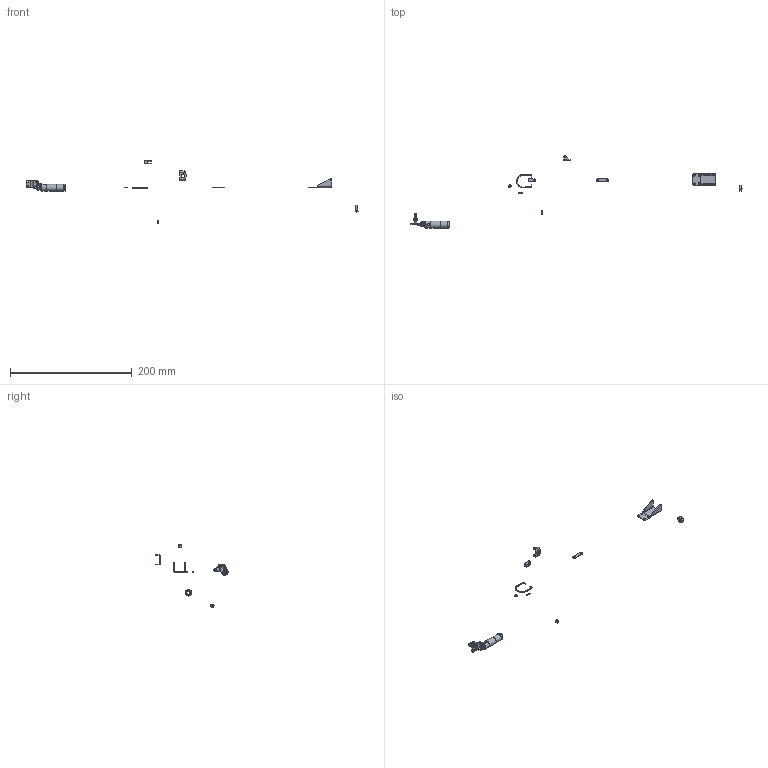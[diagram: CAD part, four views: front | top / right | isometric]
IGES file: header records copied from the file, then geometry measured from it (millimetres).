
Global section: file name: AO-101; native system: Autodesk RealDWG; preprocessor: Autodesk Translation Framework DWG producer (atf_dwg_producer); organization: unknown; date: 20160219.090517; units: centimetre
Bounding box: 546.08 x 118.53 x 102.53 mm (x, y, z)
Volume: 7268.9 mm3; surface area: 12888.2 mm2
Topology: 31 solids, 31 shells, 600 faces, 1520 edges, 999 vertices
Faces by surface type: bspline 600
